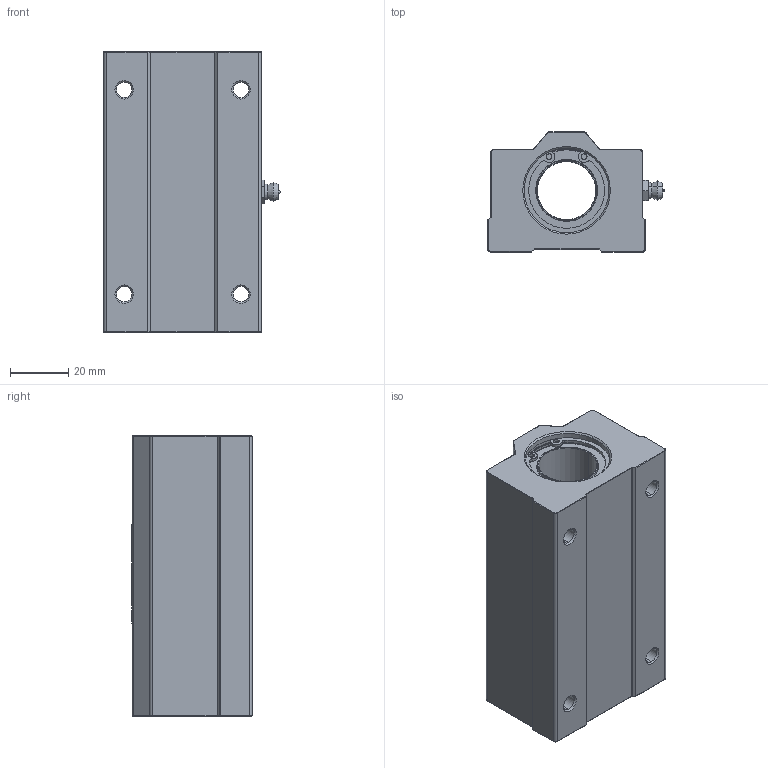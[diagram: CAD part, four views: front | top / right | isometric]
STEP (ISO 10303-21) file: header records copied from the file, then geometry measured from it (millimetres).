
FILE_DESCRIPTION (( 'STEP AP214' ), '1' );
FILE_NAME ('SC20LUU.STEP', '2020-09-28T09:42:34', ( '' ), ( '' ), 'SwSTEP 2.0', 'SolidWorks 2018', '' );
FILE_SCHEMA (( 'AUTOMOTIVE_DESIGN' ));
Length unit declared in the file: millimetre
Products named in the file (5): SC20LUU-03; SC20LUU-02; SC20LUU-01; SC20LUU; SC20LUU-04_5å4,5
Assembly tree (5 placements, depth 2):
  SC20LUU
    SC20LUU-01
    SC20LUU-02
    SC20LUU-03  x2
    SC20LUU-04_5å4,5
Bounding box: 60.45 x 41.1 x 96 mm (x, y, z)
Volume: 149437.1 mm3; surface area: 47082.4 mm2
Topology: 6 solids, 6 shells, 405 faces, 984 edges, 610 vertices
Faces by surface type: plane 161, cylinder 114, torus 48, bspline 38, cone 34, sphere 10
Entity records: 15186 total; most frequent: CARTESIAN_POINT 4230, DIRECTION 1874, ORIENTED_EDGE 1856, EDGE_CURVE 928, AXIS2_PLACEMENT_3D 664, VERTEX_POINT 577, LINE 546, VECTOR 546
